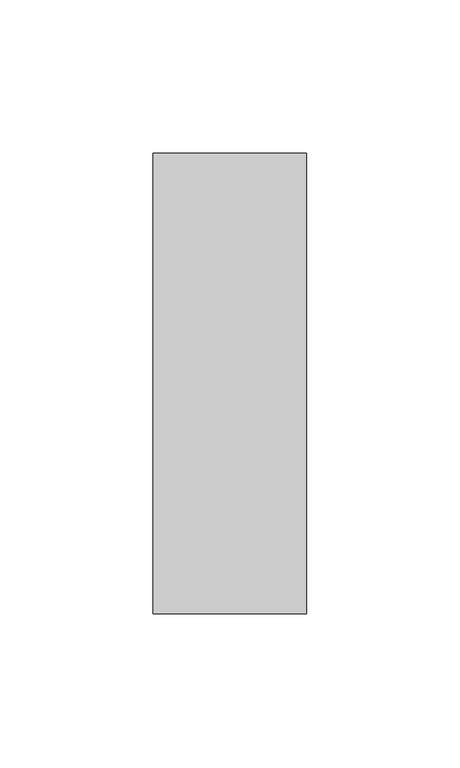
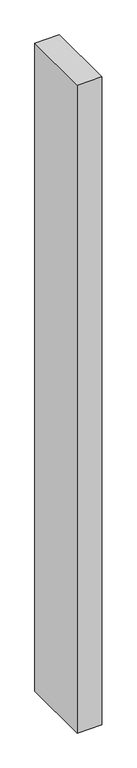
"""IFC4 building model written with IfcOpenShell, lengths in millimetres: member geometry, Прямоугольный импост : 50 x 150 мм."""

from ifc_helpers import new_model, si_unit, frame, origin, place, context, project, spatial, polyline, outline, extrude, source, transform, mapped, element, save


def member_cb9a1722(model_context):
    return source(origin(), model_context, "Body", "SweptSolid", [
        extrude(outline(polyline([(25.0, 75.0), (25.0, -75.0), (-25.0, -75.0), (-25.0, 75.0), (25.0, 75.0)])), frame((0.0, 0.0, -1401.2469861), z_axis=(0.0, 0.0, 1.0), x_axis=(1.0, 0.0, 0.0)), (0.0, 0.0, 1.0), 1401.2469861),
    ])


if __name__ == "__main__":
    model = new_model("IFC4")
    model_context = context("Model", 3, world=origin())
    ifc_project = project(units=[si_unit("LENGTHUNIT", "METRE", prefix="MILLI")], contexts=[model_context])
    site = spatial("IfcSite", under=ifc_project)
    building = spatial("IfcBuilding", under=site)
    placement = place(None, origin())
    member_shape = member_cb9a1722(model_context)
    element("IfcMember", 1, ObjectType="Прямоугольный импост : 50 x 150 мм", at=placement, inside=building, context=model_context, shape_type="MappedRepresentation", body=[
        mapped(member_shape, transform((0.0, 0.0, 0.0), x_axis=(1.0, 0.0, 0.0), y_axis=(0.0, 1.0, 0.0), z_axis=(0.0, 0.0, 1.0))),
    ])
    save(model, "model.ifc")
